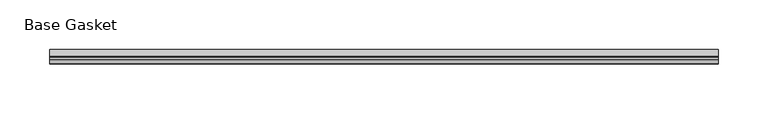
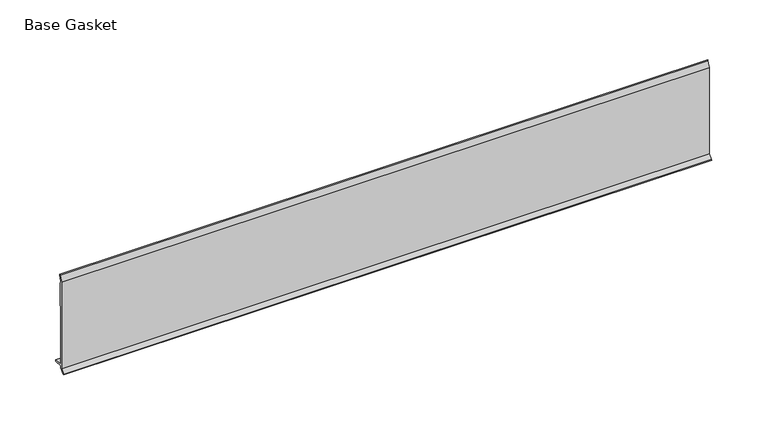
"""IFC4 building model written with IfcOpenShell, lengths in millimetres: furniture geometry, Gasket-Teknion-FHGB-AI_Healthcare-R2021 : Base Gasket."""

from ifc_helpers import new_model, si_unit, frame, origin, place, context, project, spatial, polyline, outline, extrude, source, transform, mapped, element, save


def base_gasket_f2cb5a42(model_context):
    return source(origin(), model_context, "Body", "SweptSolid", [
        extrude(outline(polyline([(-3.7283812, 98.4568417), (-1.1891543, 104.587663), (-0.6755308, 105.2002997), (-0.6755308, 104.4162708), (-2.2043812, 98.4568417), (-2.2043812, 96.8693477), (-1.4106313, 96.8693477), (-1.4106313, 71.4693447), (-2.2043812, 71.4693447), (-2.2043812, 7.9398773), (6.2405171, 7.9398773), (6.2405171, 6.3818476), (-2.1334222, 6.3818476), (-2.2043812, 4.3498477), (-6.8281054, 0.3520979), (-7.8482342, 0.0), (-7.4222115, 0.6560174), (-3.7283812, 4.3498477), (-3.7283812, 98.4568417)])), frame((-1527.8982117, 0.0, 0.0), z_axis=(1.0, 0.0, 0.0), x_axis=(0.0, 1.0, 0.0)), (0.0, 0.0, 1.0), 668.6798568),
    ])


if __name__ == "__main__":
    model = new_model("IFC4")
    model_context = context("Model", 3, world=origin())
    ifc_project = project(units=[si_unit("LENGTHUNIT", "METRE", prefix="MILLI")], contexts=[model_context])
    site = spatial("IfcSite", under=ifc_project)
    building = spatial("IfcBuilding", under=site)
    placement = place(None, origin())
    base_gasket_shape = base_gasket_f2cb5a42(model_context)
    element("IfcFurniture", 1, ObjectType="Gasket-Teknion-FHGB-AI_Healthcare-R2021 : Base Gasket", at=placement, inside=building, context=model_context, shape_type="MappedRepresentation", body=[
        mapped(base_gasket_shape, transform((0.0, 0.0, 0.0), x_axis=(1.0, 0.0, 0.0), y_axis=(0.0, 1.0, 0.0), z_axis=(0.0, 0.0, 1.0))),
    ])
    save(model, "model.ifc")
